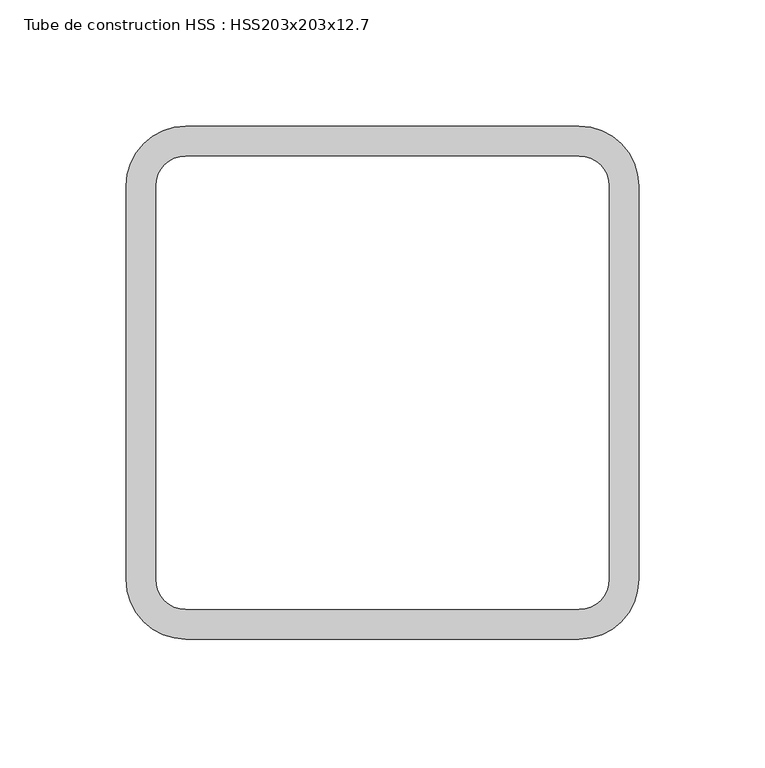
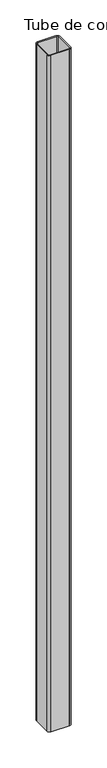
"""IFC4 building model written with IfcOpenShell, lengths in millimetres: column geometry, Tube de construction HSS : HSS203x203x12.7."""

from ifc_helpers import new_model, si_unit, point, frame, frame_2d, origin, place, context, project, spatial, polyline, circle_curve, trimmed, segment, composite_curve, outline, extrude, source, transform, mapped, element, save


def tube_de_construction_hss_hss203x203x12_7_1b0c818d(model_context):
    return source(origin(), model_context, "Body", "SweptSolid", [
        extrude(outline(composite_curve([segment(trimmed(circle_curve(frame_2d((77.978, 77.978)), 23.622), [point((77.978, 101.6))], [point((101.6, 77.978))], False, "CARTESIAN"), True, "CONTINUOUS"), segment(polyline([(101.6, 77.978), (101.6, -77.978)]), True, "CONTINUOUS"), segment(trimmed(circle_curve(frame_2d((77.978, -77.978)), 23.622), [point((101.6, -77.978))], [point((77.978, -101.6))], False, "CARTESIAN"), True, "CONTINUOUS"), segment(polyline([(77.978, -101.6), (-77.978, -101.6)]), True, "CONTINUOUS"), segment(trimmed(circle_curve(frame_2d((-77.978, -77.978)), 23.622), [point((-77.978, -101.6))], [point((-101.6, -77.978))], False, "CARTESIAN"), True, "CONTINUOUS"), segment(polyline([(-101.6, -77.978), (-101.6, 77.978)]), True, "CONTINUOUS"), segment(trimmed(circle_curve(frame_2d((-77.978, 77.978)), 23.622), [point((-101.6, 77.978))], [point((-77.978, 101.6))], False, "CARTESIAN"), True, "CONTINUOUS"), segment(polyline([(-77.978, 101.6), (77.978, 101.6)]), True, "CONTINUOUS")], self_intersect=False), holes=[composite_curve([segment(polyline([(77.978, 89.789), (-77.978, 89.789)]), True, "CONTINUOUS"), segment(trimmed(circle_curve(frame_2d((-77.978, 77.978)), 11.811), [point((-77.978, 89.789))], [point((-89.789, 77.978))], True, "CARTESIAN"), True, "CONTINUOUS"), segment(polyline([(-89.789, 77.978), (-89.789, -77.978)]), True, "CONTINUOUS"), segment(trimmed(circle_curve(frame_2d((-77.978, -77.978)), 11.811), [point((-89.789, -77.978))], [point((-77.978, -89.789))], True, "CARTESIAN"), True, "CONTINUOUS"), segment(polyline([(-77.978, -89.789), (77.978, -89.789)]), True, "CONTINUOUS"), segment(trimmed(circle_curve(frame_2d((77.978, -77.978)), 11.811), [point((77.978, -89.789))], [point((89.789, -77.978))], True, "CARTESIAN"), True, "CONTINUOUS"), segment(polyline([(89.789, -77.978), (89.789, 77.978)]), True, "CONTINUOUS"), segment(trimmed(circle_curve(frame_2d((77.978, 77.978)), 11.811), [point((89.789, 77.978))], [point((77.978, 89.789))], True, "CARTESIAN"), True, "CONTINUOUS")], self_intersect=False)]), frame((0.0, 0.0, 2800.0), z_axis=(0.0, 0.0, 1.0), x_axis=(1.0, 0.0, 0.0)), (0.0, 0.0, 1.0), 6120.0),
    ])


if __name__ == "__main__":
    model = new_model("IFC4")
    model_context = context("Model", 3, world=origin())
    ifc_project = project(units=[si_unit("LENGTHUNIT", "METRE", prefix="MILLI")], contexts=[model_context])
    site = spatial("IfcSite", under=ifc_project)
    building = spatial("IfcBuilding", under=site)
    placement = place(None, origin())
    tube_de_construction_hss_hss203x203x12_7_shape = tube_de_construction_hss_hss203x203x12_7_1b0c818d(model_context)
    element("IfcColumn", 1, ObjectType="Tube de construction HSS : HSS203x203x12.7", at=placement, inside=building, context=model_context, shape_type="MappedRepresentation", body=[
        mapped(tube_de_construction_hss_hss203x203x12_7_shape, transform((0.0, 0.0, 0.0), x_axis=(1.0, 0.0, 0.0), y_axis=(0.0, 1.0, 0.0), z_axis=(0.0, 0.0, 1.0))),
    ])
    save(model, "model.ifc")
